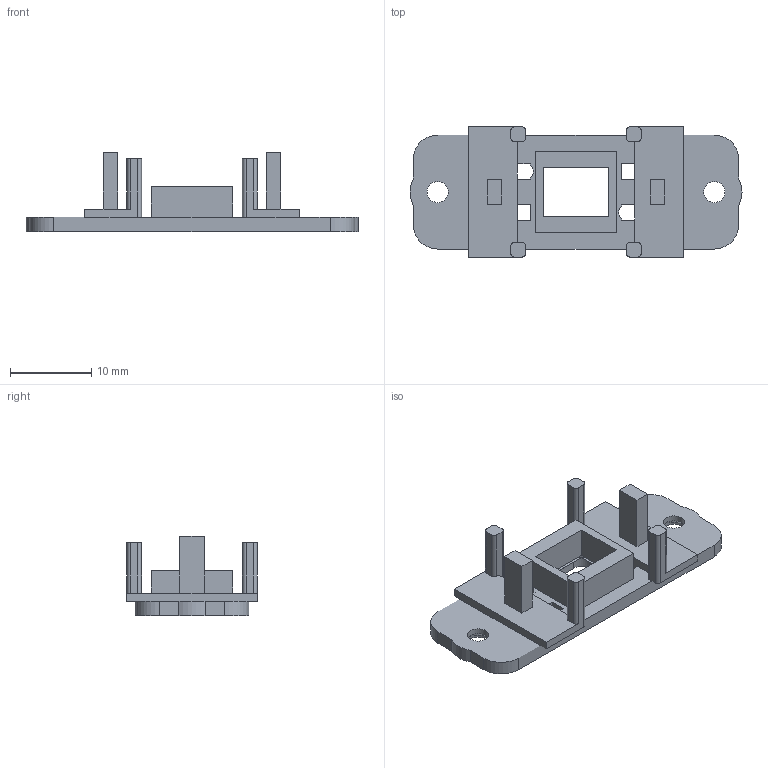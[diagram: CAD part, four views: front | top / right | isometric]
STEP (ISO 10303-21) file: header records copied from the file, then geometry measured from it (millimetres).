
FILE_DESCRIPTION(('Open CASCADE Model'),'2;1');
FILE_NAME('Open CASCADE Shape Model','2026-09-15T13:51:03',('Author'),( 'Open CASCADE'),'Open CASCADE STEP processor 7.7','Open CASCADE 7.7' ,'Unknown');
FILE_SCHEMA(('AUTOMOTIVE_DESIGN { 1 0 10303 214 1 1 1 1 }'));
Length unit declared in the file: millimetre
Products named in the file (1): SOLID
Bounding box: 40.8 x 16 x 9.75 mm (x, y, z)
Volume: 1352 mm3; surface area: 2011.1 mm2
Topology: 1 solids, 1 shells, 152 faces, 436 edges, 288 vertices
Faces by surface type: plane 110, cylinder 40, cone 2
Full cylindrical faces by diameter (mm): 2.6 x2, 3.92 x2
Entity records: 10553 total; most frequent: CARTESIAN_POINT 2099, DIRECTION 1489, LINE 976, VECTOR 976, ORIENTED_EDGE 872, PCURVE 872, DEFINITIONAL_REPRESENTATION 872, EDGE_CURVE 436
